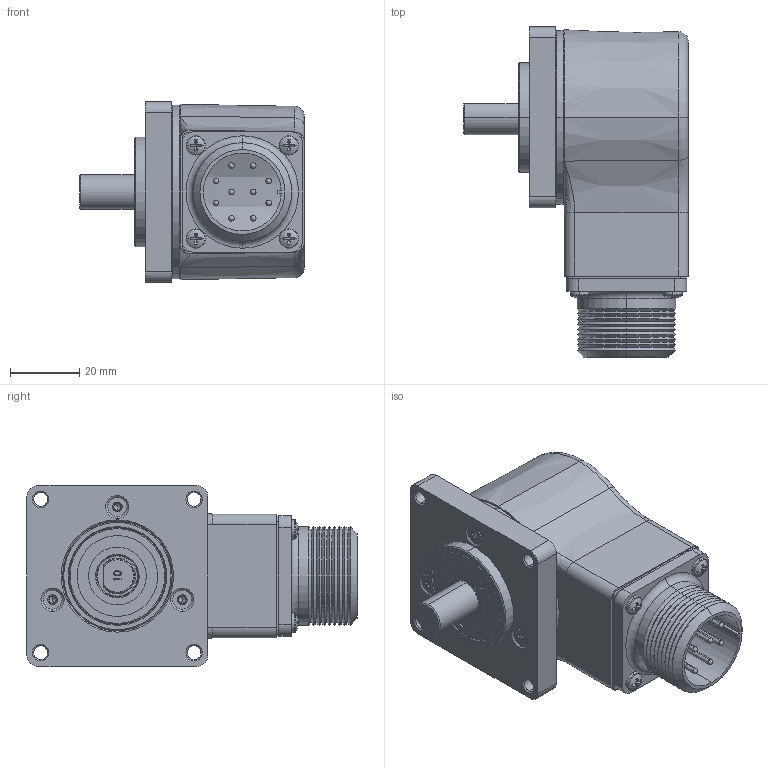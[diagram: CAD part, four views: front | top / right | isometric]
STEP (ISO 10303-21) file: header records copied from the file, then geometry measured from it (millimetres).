
FILE_DESCRIPTION (( 'STEP AP203' ), '1' );
FILE_NAME ('847T-DLXX-RHXXXXX.STEP', '2014-09-23T22:21:28', ( 'Windows 7 64-Bit' ), ( 'SICK Inc.' ), 'SwSTEP 2.0', 'SolidWorks 2014', '' );
FILE_SCHEMA (( 'CONFIG_CONTROL_DESIGN' ));
Length unit declared in the file: millimetre
Products named in the file (1): 847T-DLXX-RHXXXXX
Bounding box: 65.17 x 95.62 x 52.39 mm (x, y, z)
Surface area: 27328.4 mm2 (no closed solid volume)
Topology: 0 solids, 27 shells, 395 faces, 1047 edges, 653 vertices
Faces by surface type: cylinder 145, plane 102, cone 101, sphere 18, torus 16, bspline 13
Entity records: 12963 total; most frequent: CARTESIAN_POINT 3295, DIRECTION 2182, ORIENTED_EDGE 1820, EDGE_CURVE 999, AXIS2_PLACEMENT_3D 912, VERTEX_POINT 633, CIRCLE 529, EDGE_LOOP 444
